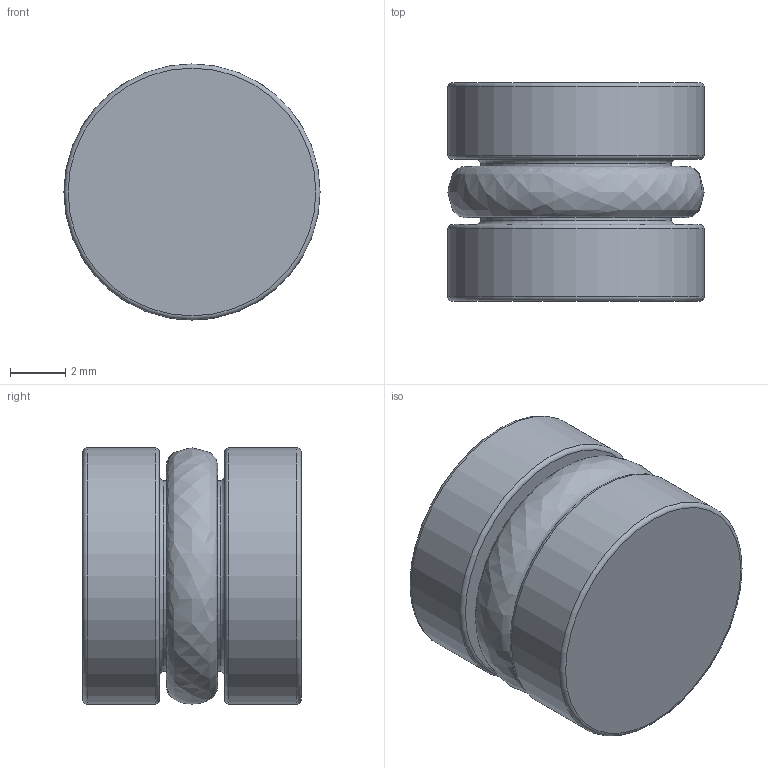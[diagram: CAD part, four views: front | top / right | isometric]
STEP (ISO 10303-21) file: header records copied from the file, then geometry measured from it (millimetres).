
FILE_DESCRIPTION(/* description */ (''),/* implementation_level */ '2;1');
FILE_NAME(/* name */ 'C:/Users/drich/Desktop/OR-375 v1.step',/* time_stamp */ '2019-12-29T16:45:58-06:00',/* author */ (''),/* organization */ (''),/* preprocessor_version */ 'ST-DEVELOPER v18',/* originating_system */ 'Autodesk Translation Framework v8.12.0.6',/* authorisation */ '');
FILE_SCHEMA (('AUTOMOTIVE_DESIGN { 1 0 10303 214 3 1 1 }'));
Length unit declared in the file: inch
Products named in the file (1): OR-375
Bounding box: 9.3 x 7.92 x 9.3 mm (x, y, z)
Volume: 471.6 mm3; surface area: 563.1 mm2
Topology: 2 solids, 2 shells, 17 faces, 45 edges, 32 vertices
Faces by surface type: torus 6, cylinder 4, plane 4, cone 2, bspline 1
Full cylindrical faces by diameter (mm): 3.416 x1, 6.934 x1, 9.296 x2
Entity records: 681 total; most frequent: CARTESIAN_POINT 174, DIRECTION 116, ORIENTED_EDGE 88, AXIS2_PLACEMENT_3D 55, EDGE_CURVE 44, CIRCLE 37, VERTEX_POINT 32, EDGE_LOOP 20
